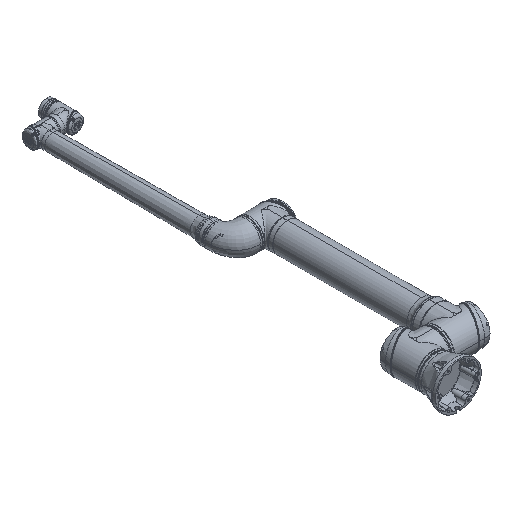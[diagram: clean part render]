
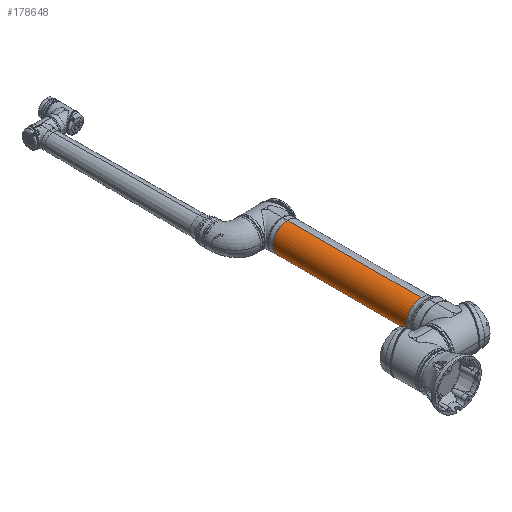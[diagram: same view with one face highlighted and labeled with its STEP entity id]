
A CAD part, isometric view. The second image highlights one B-rep face of the part: STEP entity #178648.
In plain terms, the highlighted cylindrical face has radius 76 mm (diameter 152 mm), a partial arc.
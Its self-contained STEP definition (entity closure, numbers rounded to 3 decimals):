
#8545 = CARTESIAN_POINT ( 'NONE',  ( 0., -184.707, 76. ) ) ;
#9219 = CARTESIAN_POINT ( 'NONE',  ( 0., -197., -76. ) ) ;
#14505 = DIRECTION ( 'NONE',  ( 0., 1., 0. ) ) ;
#18372 = ORIENTED_EDGE ( 'NONE', *, *, #184443, .T. ) ;
#24929 = EDGE_CURVE ( 'NONE', #286675, #159475, #276999, .T. ) ;
#33042 = CARTESIAN_POINT ( 'NONE',  ( 0., -885.5, -76. ) ) ;
#33915 = VECTOR ( 'NONE', #284305, 1000. ) ;
#40444 = EDGE_CURVE ( 'NONE', #238461, #286675, #232417, .T. ) ;
#50684 = FACE_OUTER_BOUND ( 'NONE', #237584, .T. ) ;
#55077 = VERTEX_POINT ( 'NONE', #8545 ) ;
#57435 = DIRECTION ( 'NONE',  ( 0., 0., 1. ) ) ;
#59163 = CARTESIAN_POINT ( 'NONE',  ( 0., -885.5, 76. ) ) ;
#71556 = CARTESIAN_POINT ( 'NONE',  ( 0., -197., 0. ) ) ;
#94123 = EDGE_CURVE ( 'NONE', #254908, #238461, #281462, .T. ) ;
#104197 = AXIS2_PLACEMENT_3D ( 'NONE', #149639, #206696, #248188 ) ;
#110153 = AXIS2_PLACEMENT_3D ( 'NONE', #161365, #124946, #57435 ) ;
#115684 = LINE ( 'NONE', #209376, #313351 ) ;
#124946 = DIRECTION ( 'NONE',  ( 0., -1., 0. ) ) ;
#135070 = CARTESIAN_POINT ( 'NONE',  ( 0., -184.707, -76. ) ) ;
#142474 = AXIS2_PLACEMENT_3D ( 'NONE', #180628, #320751, #149341 ) ;
#144492 = CARTESIAN_POINT ( 'NONE',  ( 41.568, -184.707, -63.625 ) ) ;
#149341 = DIRECTION ( 'NONE',  ( 0., 0., 1. ) ) ;
#149639 = CARTESIAN_POINT ( 'NONE',  ( 0., -184.707, 0. ) ) ;
#159475 = VERTEX_POINT ( 'NONE', #144492 ) ;
#161365 = CARTESIAN_POINT ( 'NONE',  ( 0., -184.707, 0. ) ) ;
#172959 = DIRECTION ( 'NONE',  ( 0., 1., 0. ) ) ;
#178648 = ADVANCED_FACE ( 'NONE', ( #50684 ), #211733, .T. ) ;
#180628 = CARTESIAN_POINT ( 'NONE',  ( 0., -885.5, 0. ) ) ;
#184443 = EDGE_CURVE ( 'NONE', #159475, #55077, #189607, .T. ) ;
#188408 = ORIENTED_EDGE ( 'NONE', *, *, #40444, .T. ) ;
#189607 = CIRCLE ( 'NONE', #104197, 76. ) ;
#191456 = ORIENTED_EDGE ( 'NONE', *, *, #24929, .T. ) ;
#193984 = ORIENTED_EDGE ( 'NONE', *, *, #94123, .T. ) ;
#206696 = DIRECTION ( 'NONE',  ( 0., -1., 0. ) ) ;
#209376 = CARTESIAN_POINT ( 'NONE',  ( 0., -197., 76. ) ) ;
#211733 = CYLINDRICAL_SURFACE ( 'NONE', #302195, 76. ) ;
#226969 = ORIENTED_EDGE ( 'NONE', *, *, #228405, .F. ) ;
#228405 = EDGE_CURVE ( 'NONE', #254908, #55077, #115684, .T. ) ;
#232417 = LINE ( 'NONE', #9219, #33915 ) ;
#237584 = EDGE_LOOP ( 'NONE', ( #193984, #188408, #191456, #18372, #226969 ) ) ;
#238461 = VERTEX_POINT ( 'NONE', #33042 ) ;
#248188 = DIRECTION ( 'NONE',  ( 0., 0., 1. ) ) ;
#254908 = VERTEX_POINT ( 'NONE', #59163 ) ;
#276999 = CIRCLE ( 'NONE', #110153, 76. ) ;
#281462 = CIRCLE ( 'NONE', #142474, 76. ) ;
#284263 = DIRECTION ( 'NONE',  ( 0., 0., 1. ) ) ;
#284305 = DIRECTION ( 'NONE',  ( 0., 1., 0. ) ) ;
#286675 = VERTEX_POINT ( 'NONE', #135070 ) ;
#302195 = AXIS2_PLACEMENT_3D ( 'NONE', #71556, #14505, #284263 ) ;
#313351 = VECTOR ( 'NONE', #172959, 1000. ) ;
#320751 = DIRECTION ( 'NONE',  ( 0., 1., 0. ) ) ;
